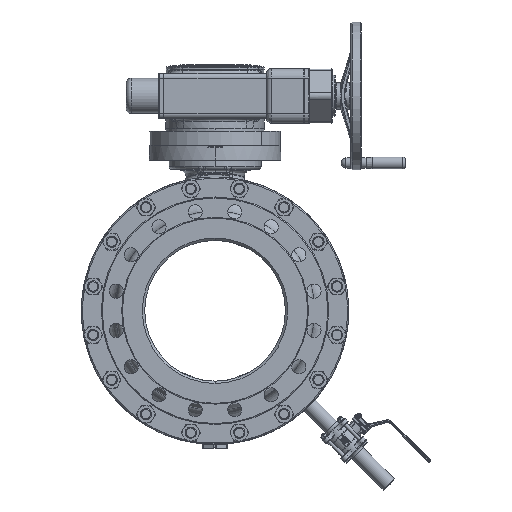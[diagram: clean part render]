
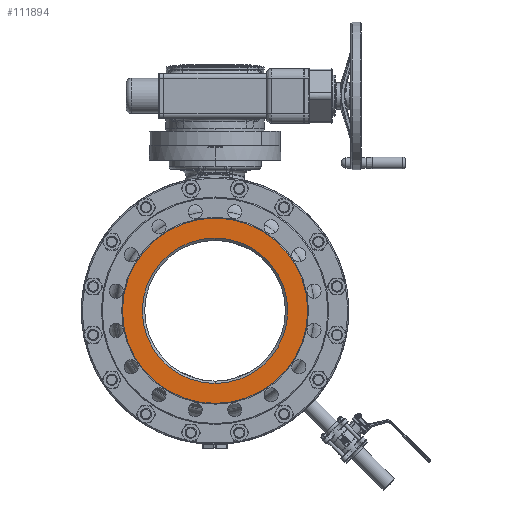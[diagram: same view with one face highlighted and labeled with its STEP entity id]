
A CAD part, left-side view. The second image highlights one B-rep face of the part: STEP entity #111894.
In plain terms, the highlighted planar face has unit normal (-1, 0, 0).
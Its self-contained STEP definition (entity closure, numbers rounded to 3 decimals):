
#34296=CARTESIAN_POINT('',(-305.,0.,0.));
#34297=DIRECTION('',(-1.,0.,0.));
#34298=DIRECTION('',(0.,0.,1.));
#34299=AXIS2_PLACEMENT_3D('',#34296,#34297,#34298);
#34301=CARTESIAN_POINT('',(-305.,0.,0.));
#34302=DIRECTION('',(1.,0.,0.));
#34303=DIRECTION('',(0.,0.,1.));
#34304=AXIS2_PLACEMENT_3D('',#34301,#34302,#34303);
#34310=CARTESIAN_POINT('',(-305.,0.,0.));
#34311=DIRECTION('',(1.,0.,0.));
#34312=DIRECTION('',(0.,0.,1.));
#34313=AXIS2_PLACEMENT_3D('',#34310,#34311,#34312);
#34337=CARTESIAN_POINT('',(-305.,0.,0.));
#34338=DIRECTION('',(-1.,0.,0.));
#34339=DIRECTION('',(0.,0.,1.));
#34340=AXIS2_PLACEMENT_3D('',#34337,#34338,#34339);
#50927=CARTESIAN_POINT('',(-305.,0.,197.5));
#50928=VERTEX_POINT('',#50927);
#50945=CARTESIAN_POINT('',(-305.,0.,-197.5));
#50946=VERTEX_POINT('',#50945);
#50947=CARTESIAN_POINT('',(-305.,0.,155.));
#50948=CARTESIAN_POINT('',(-305.,0.,-155.));
#50949=VERTEX_POINT('',#50947);
#50950=VERTEX_POINT('',#50948);
#111879=CARTESIAN_POINT('',(-305.,0.,0.));
#111880=DIRECTION('',(-1.,0.,0.));
#111881=DIRECTION('',(0.,0.,-1.));
#111882=AXIS2_PLACEMENT_3D('',#111879,#111880,#111881);
#111883=PLANE('',#111882);
#111884=ORIENTED_EDGE('',*,*,#111858,.F.);
#111885=ORIENTED_EDGE('',*,*,#111874,.T.);
#111886=EDGE_LOOP('',(#111884,#111885));
#111887=FACE_OUTER_BOUND('',#111886,.F.);
#111889=ORIENTED_EDGE('',*,*,#111888,.F.);
#111891=ORIENTED_EDGE('',*,*,#111890,.T.);
#111892=EDGE_LOOP('',(#111889,#111891));
#111893=FACE_BOUND('',#111892,.F.);
#111894=ADVANCED_FACE('',(#111887,#111893),#111883,.T.);
#34300=CIRCLE('',#34299,197.5);
#34305=CIRCLE('',#34304,197.5);
#34314=CIRCLE('',#34313,155.);
#34341=CIRCLE('',#34340,155.);
#111858=EDGE_CURVE('',#50928,#50946,#34300,.T.);
#111874=EDGE_CURVE('',#50928,#50946,#34305,.T.);
#111888=EDGE_CURVE('',#50949,#50950,#34314,.T.);
#111890=EDGE_CURVE('',#50949,#50950,#34341,.T.);
